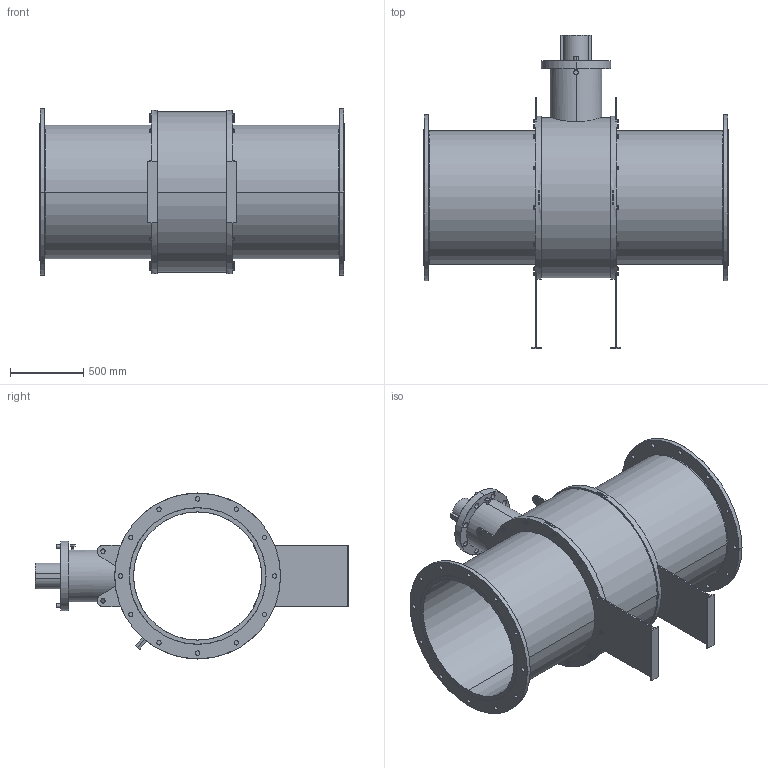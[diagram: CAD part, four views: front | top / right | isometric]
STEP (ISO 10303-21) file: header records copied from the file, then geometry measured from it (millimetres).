
FILE_DESCRIPTION (( 'STEP AP203' ), '1' );
FILE_NAME ('GB2_ANSI_600_36IN_TW.STEP', '2025-10-09T13:46:30', ( '' ), ( '' ), 'SwSTEP 2.0', 'SolidWorks 2025', '' );
FILE_SCHEMA (( 'CONFIG_CONTROL_DESIGN' ));
Length unit declared in the file: millimetre
Products named in the file (3): GB2_ANSI_600_36IN_TW; hex flange screw_am_B18.2.3.4M - Hex flange screw, M16 x 2.0 x 25 --25N; GB2_ANSI_2500_1500_ANSI_600_36IN
Assembly tree (25 placements, depth 2):
  GB2_ANSI_600_36IN_TW
    GB2_ANSI_2500_1500_ANSI_600_36IN
    hex flange screw_am_B18.2.3.4M - Hex flange screw, M16 x 2.0 x 25 --25N  x24
Bounding box: 2083 x 2147 x 1136 mm (x, y, z)
Volume: 351681092 mm3; surface area: 16317540.8 mm2
Topology: 25 solids, 25 shells, 1041 faces, 2326 edges, 1392 vertices
Faces by surface type: plane 325, cone 270, cylinder 230, bspline 156, torus 54, sphere 6
Entity records: 14037 total; most frequent: CARTESIAN_POINT 4020, DIRECTION 2022, ORIENTED_EDGE 1792, EDGE_CURVE 896, AXIS2_PLACEMENT_3D 820, VERTEX_POINT 562, EDGE_LOOP 492, CIRCLE 436
